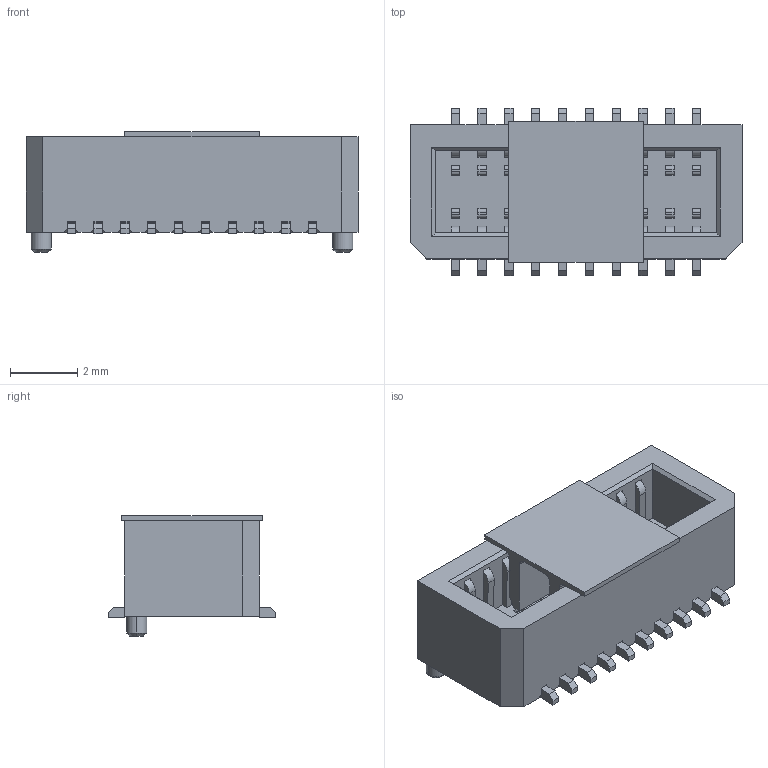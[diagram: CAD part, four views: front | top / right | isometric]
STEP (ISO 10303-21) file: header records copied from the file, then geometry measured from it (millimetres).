
FILE_DESCRIPTION(('CATIA V5 STEP Exchange'),'2;1');
FILE_NAME('F:\黄富鸿\板对板\PBB08B\母座\H2.90\带盖\HC-PBB08B-1-20-F-H2.9-XX-R-P-06 (BTB0.8 单槽 B型母座 立贴 带柱 编带+盖)-HCTL.stp','2026-01-26T06:13:52+00:00',('none'),('none'),'CATIA Version 5 Release 20 GA (IN-10)','CATIA V5 STEP AP203','none');
FILE_SCHEMA(('CONFIG_CONTROL_DESIGN'));
Length unit declared in the file: millimetre
Products named in the file (1): Part1
Bounding box: 9.9 x 5 x 3.6 mm (x, y, z)
Volume: 82.3 mm3; surface area: 442.4 mm2
Topology: 22 solids, 22 shells, 947 faces, 2832 edges, 1872 vertices
Faces by surface type: plane 575, cylinder 368, cone 4
Entity records: 29743 total; most frequent: ORIENTED_EDGE 5664, CARTESIAN_POINT 5349, DIRECTION 4108, EDGE_CURVE 2832, VECTOR 2088, LINE 2088, VERTEX_POINT 1872, AXIS2_PLACEMENT_3D 1381
